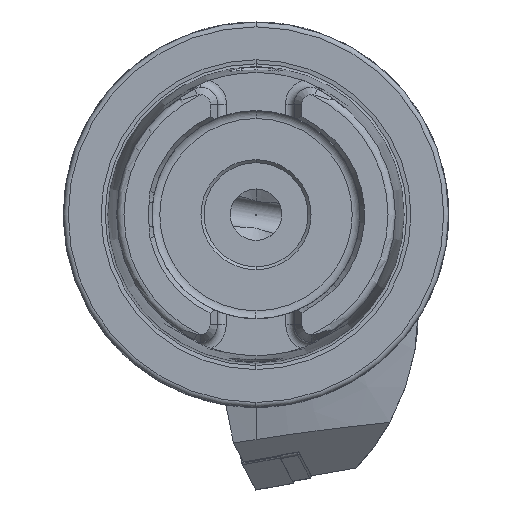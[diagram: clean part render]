
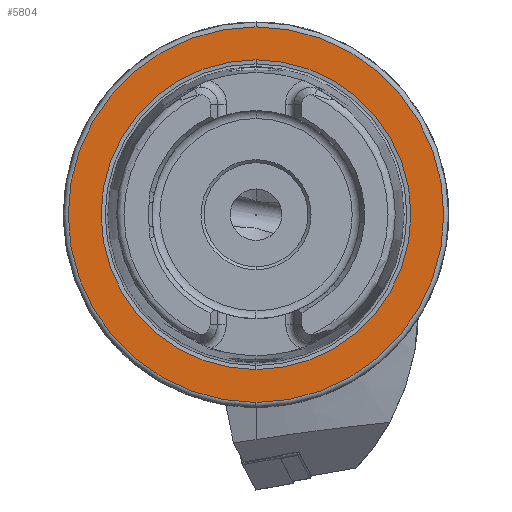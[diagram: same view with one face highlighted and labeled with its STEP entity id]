
A CAD part, left-side view. The second image highlights one B-rep face of the part: STEP entity #5804.
In plain terms, the highlighted planar face has unit normal (-1, 0, 0).
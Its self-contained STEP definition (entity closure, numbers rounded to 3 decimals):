
#337 = EDGE_CURVE ( 'NONE', #531, #16850, #14128, .T. ) ;
#531 = VERTEX_POINT ( 'NONE', #10329 ) ;
#1294 = PLANE ( 'NONE',  #13633 ) ;
#1316 = ORIENTED_EDGE ( 'NONE', *, *, #3928, .T. ) ;
#1728 = AXIS2_PLACEMENT_3D ( 'NONE', #13915, #9505, #15446 ) ;
#2017 = EDGE_CURVE ( 'NONE', #16850, #531, #5265, .T. ) ;
#3310 = DIRECTION ( 'NONE',  ( 0., 0., 1. ) ) ;
#3715 = DIRECTION ( 'NONE',  ( -1., 0., 0. ) ) ;
#3928 = EDGE_CURVE ( 'NONE', #14589, #18294, #10865, .T. ) ;
#5265 = CIRCLE ( 'NONE', #1728, 25.324 ) ;
#5367 = FACE_BOUND ( 'NONE', #16905, .T. ) ;
#5804 = ADVANCED_FACE ( 'NONE', ( #5367, #14870 ), #1294, .F. ) ;
#5908 = AXIS2_PLACEMENT_3D ( 'NONE', #15700, #17454, #7427 ) ;
#6218 = CARTESIAN_POINT ( 'NONE',  ( 0., 0., 0. ) ) ;
#7427 = DIRECTION ( 'NONE',  ( 0., 0., 1. ) ) ;
#8105 = EDGE_LOOP ( 'NONE', ( #8284, #1316 ) ) ;
#8284 = ORIENTED_EDGE ( 'NONE', *, *, #13655, .T. ) ;
#8289 = DIRECTION ( 'NONE',  ( 0., 0., 1. ) ) ;
#8424 = AXIS2_PLACEMENT_3D ( 'NONE', #10947, #3715, #8289 ) ;
#9505 = DIRECTION ( 'NONE',  ( -1., 0., 0. ) ) ;
#9827 = CARTESIAN_POINT ( 'NONE',  ( 0., 0., 30.7 ) ) ;
#10014 = DIRECTION ( 'NONE',  ( 0., 0., -1. ) ) ;
#10329 = CARTESIAN_POINT ( 'NONE',  ( 0., 0., 25.324 ) ) ;
#10865 = CIRCLE ( 'NONE', #8424, 30.7 ) ;
#10947 = CARTESIAN_POINT ( 'NONE',  ( 0., 0., 0. ) ) ;
#13597 = DIRECTION ( 'NONE',  ( -1., 0., 0. ) ) ;
#13633 = AXIS2_PLACEMENT_3D ( 'NONE', #17013, #18556, #10014 ) ;
#13655 = EDGE_CURVE ( 'NONE', #18294, #14589, #18651, .T. ) ;
#13915 = CARTESIAN_POINT ( 'NONE',  ( 0., 0., 0. ) ) ;
#14128 = CIRCLE ( 'NONE', #18376, 25.324 ) ;
#14589 = VERTEX_POINT ( 'NONE', #15522 ) ;
#14870 = FACE_OUTER_BOUND ( 'NONE', #8105, .T. ) ;
#15446 = DIRECTION ( 'NONE',  ( 0., 0., 1. ) ) ;
#15522 = CARTESIAN_POINT ( 'NONE',  ( 0., 0., -30.7 ) ) ;
#15700 = CARTESIAN_POINT ( 'NONE',  ( 0., 0., 0. ) ) ;
#15973 = ORIENTED_EDGE ( 'NONE', *, *, #337, .F. ) ;
#15989 = CARTESIAN_POINT ( 'NONE',  ( 0., 0., -25.324 ) ) ;
#16850 = VERTEX_POINT ( 'NONE', #15989 ) ;
#16905 = EDGE_LOOP ( 'NONE', ( #15973, #16946 ) ) ;
#16946 = ORIENTED_EDGE ( 'NONE', *, *, #2017, .F. ) ;
#17013 = CARTESIAN_POINT ( 'NONE',  ( 0., 30.7, 0. ) ) ;
#17454 = DIRECTION ( 'NONE',  ( -1., 0., 0. ) ) ;
#18294 = VERTEX_POINT ( 'NONE', #9827 ) ;
#18376 = AXIS2_PLACEMENT_3D ( 'NONE', #6218, #13597, #3310 ) ;
#18556 = DIRECTION ( 'NONE',  ( 1., 0., 0. ) ) ;
#18651 = CIRCLE ( 'NONE', #5908, 30.7 ) ;
